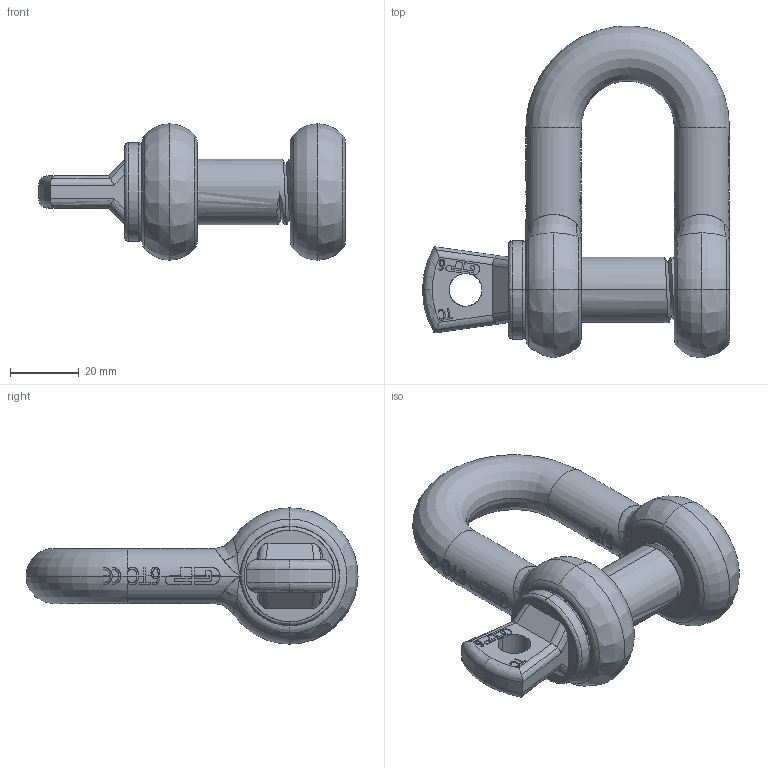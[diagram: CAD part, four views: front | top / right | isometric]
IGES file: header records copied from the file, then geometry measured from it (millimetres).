
Start section: START RECORD GO HERE.
Global section: file name: 3,25.igs; native system: Solidworks 2009      A Version 5 Release 17 ; preprocessor: Solidworks                 ; author: v.b.; organization: P4; date: 20090807.081841; units: millimetre
Bounding box: 89 x 96.23 x 39.5 mm (x, y, z)
Surface area: 21903.2 mm2 (no closed solid volume)
Topology: 0 solids, 0 shells, 692 faces, 4684 edges, 4676 vertices
Faces by surface type: bspline 293, plane 227, revolution 172
